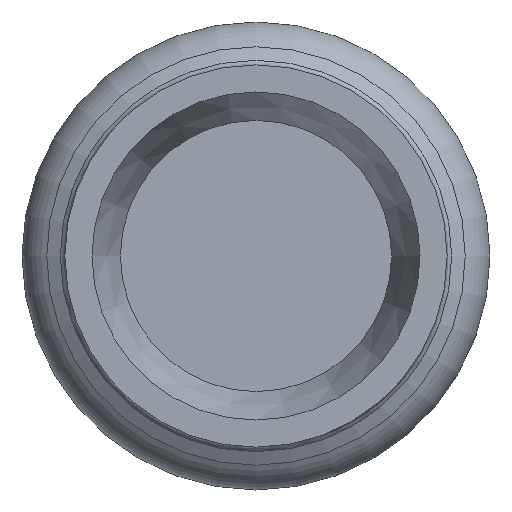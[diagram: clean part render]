
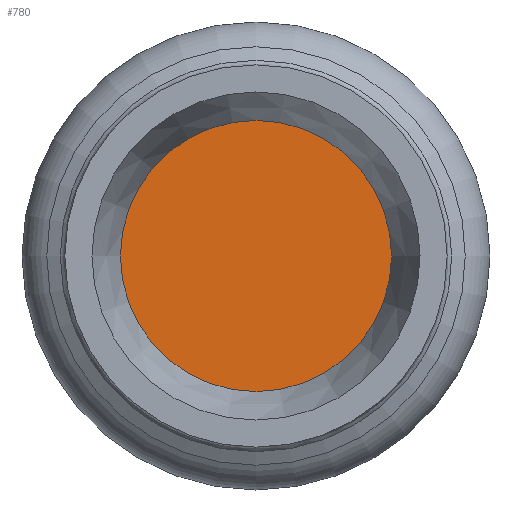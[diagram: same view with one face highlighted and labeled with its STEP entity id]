
A CAD part, left-side view. The second image highlights one B-rep face of the part: STEP entity #780.
In plain terms, the highlighted planar face has unit normal (-1, 0, 0) as drawn and (0, 0, -1) by its records, which use the part's own axes.
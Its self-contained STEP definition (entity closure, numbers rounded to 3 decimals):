
#751=CARTESIAN_POINT('',(0.75,0.,0.0));
#752=VERTEX_POINT('',#751);
#753=CARTESIAN_POINT('',(-8.25,0.0,0.0));
#754=DIRECTION('',(0.0,0.0,-1.0));
#755=DIRECTION('',(-1.0,0.0,0.0));
#756=AXIS2_PLACEMENT_3D('',#753,#754,#755);
#757=CIRCLE('',#756,9.);
#758=EDGE_CURVE('',#752,#752,#757,.T.);
#772=CARTESIAN_POINT('',(-8.25,0.0,0.0));
#773=DIRECTION('',(0.0,0.0,-1.0));
#774=DIRECTION('',(-1.0,0.0,0.0));
#775=AXIS2_PLACEMENT_3D('',#772,#773,#774);
#776=PLANE('',#775);
#777=ORIENTED_EDGE('',*,*,#758,.T.);
#778=EDGE_LOOP('',(#777));
#779=FACE_OUTER_BOUND('',#778,.T.);
#780=ADVANCED_FACE('',(#779),#776,.T.);
